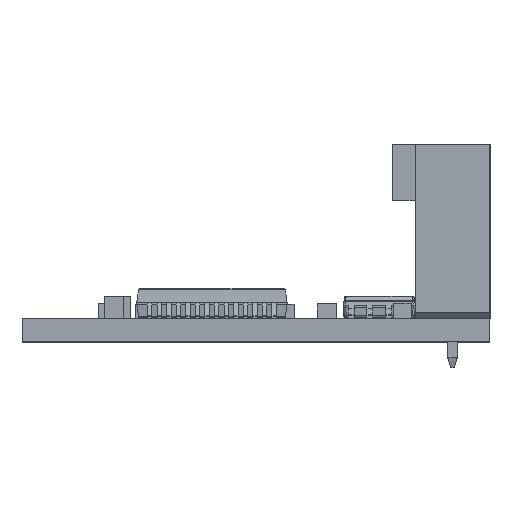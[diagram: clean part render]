
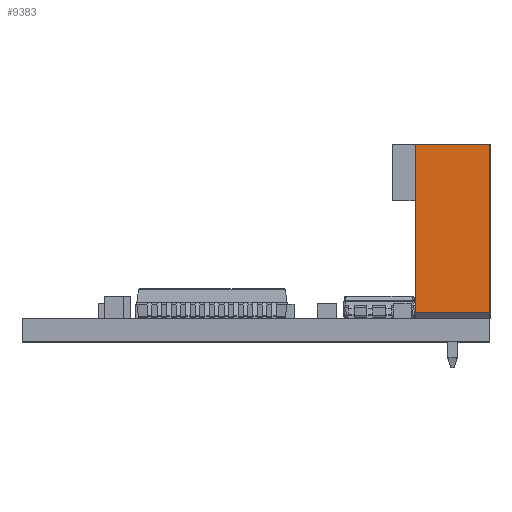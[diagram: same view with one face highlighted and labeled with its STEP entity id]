
A CAD part, top view. The second image highlights one B-rep face of the part: STEP entity #9383.
In plain terms, the highlighted planar face has unit normal (0, 0, 1).
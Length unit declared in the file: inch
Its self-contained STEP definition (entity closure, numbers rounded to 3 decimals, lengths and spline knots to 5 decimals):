
#1202 = DIRECTION ( 'NONE',  ( -1., 0., 0. ) ) ;
#3244 = DIRECTION ( 'NONE',  ( 0., -1., 0. ) ) ;
#3291 = EDGE_CURVE ( 'NONE', #28367, #22233, #34275, .T. ) ;
#4955 = DIRECTION ( 'NONE',  ( -1., 0., 0. ) ) ;
#5599 = EDGE_CURVE ( 'NONE', #6395, #13107, #39501, .T. ) ;
#5800 = DIRECTION ( 'NONE',  ( 1., 0., 0. ) ) ;
#6395 = VERTEX_POINT ( 'NONE', #26142 ) ;
#8717 = PLANE ( 'NONE',  #29332 ) ;
#9383 = ADVANCED_FACE ( 'NONE', ( #40180 ), #8717, .F. ) ;
#9630 = EDGE_LOOP ( 'NONE', ( #17089, #39750, #30583, #32574 ) ) ;
#10585 = CARTESIAN_POINT ( 'NONE',  ( -7.69502, 0.45234, 4.79328 ) ) ;
#12534 = CARTESIAN_POINT ( 'NONE',  ( -7.69502, 0.45234, 4.79328 ) ) ;
#12598 = LINE ( 'NONE', #21427, #33348 ) ;
#13107 = VERTEX_POINT ( 'NONE', #36790 ) ;
#14137 = VECTOR ( 'NONE', #3244, 39.37008 ) ;
#14955 = VECTOR ( 'NONE', #5800, 39.37008 ) ;
#15972 = DIRECTION ( 'NONE',  ( 0., -1., 0. ) ) ;
#17089 = ORIENTED_EDGE ( 'NONE', *, *, #5599, .F. ) ;
#19682 = LINE ( 'NONE', #12534, #14137 ) ;
#19925 = CARTESIAN_POINT ( 'NONE',  ( -7.79502, 0.30234, 4.79328 ) ) ;
#21427 = CARTESIAN_POINT ( 'NONE',  ( -7.89502, 0.45234, 4.79328 ) ) ;
#22233 = VERTEX_POINT ( 'NONE', #10585 ) ;
#23438 = EDGE_CURVE ( 'NONE', #22233, #6395, #19682, .T. ) ;
#24316 = CARTESIAN_POINT ( 'NONE',  ( -7.89502, 0.45234, 4.79328 ) ) ;
#26142 = CARTESIAN_POINT ( 'NONE',  ( -7.69502, 0.00234, 4.79328 ) ) ;
#27836 = VECTOR ( 'NONE', #4955, 39.37008 ) ;
#28367 = VERTEX_POINT ( 'NONE', #40648 ) ;
#28845 = EDGE_CURVE ( 'NONE', #28367, #13107, #12598, .T. ) ;
#29332 = AXIS2_PLACEMENT_3D ( 'NONE', #19925, #38654, #1202 ) ;
#30583 = ORIENTED_EDGE ( 'NONE', *, *, #3291, .F. ) ;
#32574 = ORIENTED_EDGE ( 'NONE', *, *, #28845, .T. ) ;
#33348 = VECTOR ( 'NONE', #15972, 39.37008 ) ;
#34275 = LINE ( 'NONE', #24316, #14955 ) ;
#36532 = CARTESIAN_POINT ( 'NONE',  ( -7.69502, 0.00234, 4.79328 ) ) ;
#36790 = CARTESIAN_POINT ( 'NONE',  ( -7.89502, 0.00234, 4.79328 ) ) ;
#38654 = DIRECTION ( 'NONE',  ( 0., 0., -1. ) ) ;
#39501 = LINE ( 'NONE', #36532, #27836 ) ;
#39750 = ORIENTED_EDGE ( 'NONE', *, *, #23438, .F. ) ;
#40180 = FACE_OUTER_BOUND ( 'NONE', #9630, .T. ) ;
#40648 = CARTESIAN_POINT ( 'NONE',  ( -7.89502, 0.45234, 4.79328 ) ) ;
